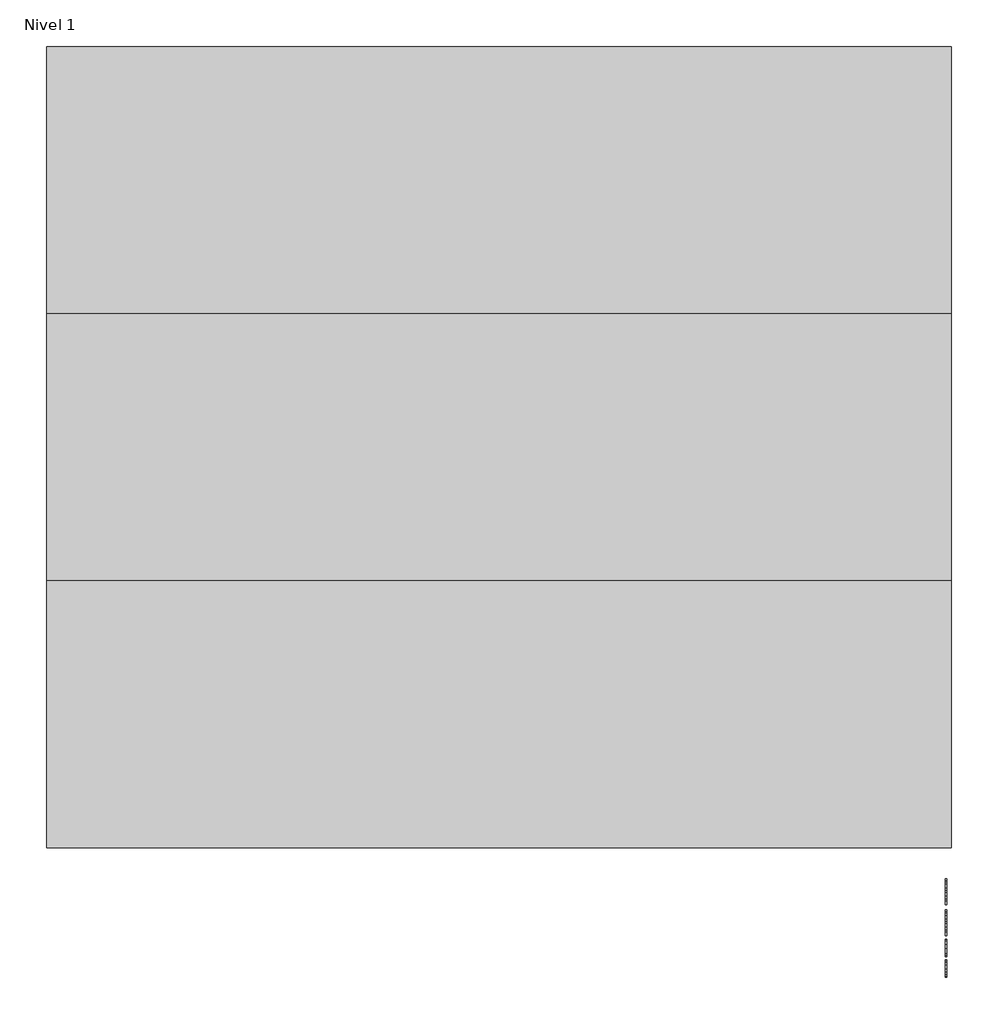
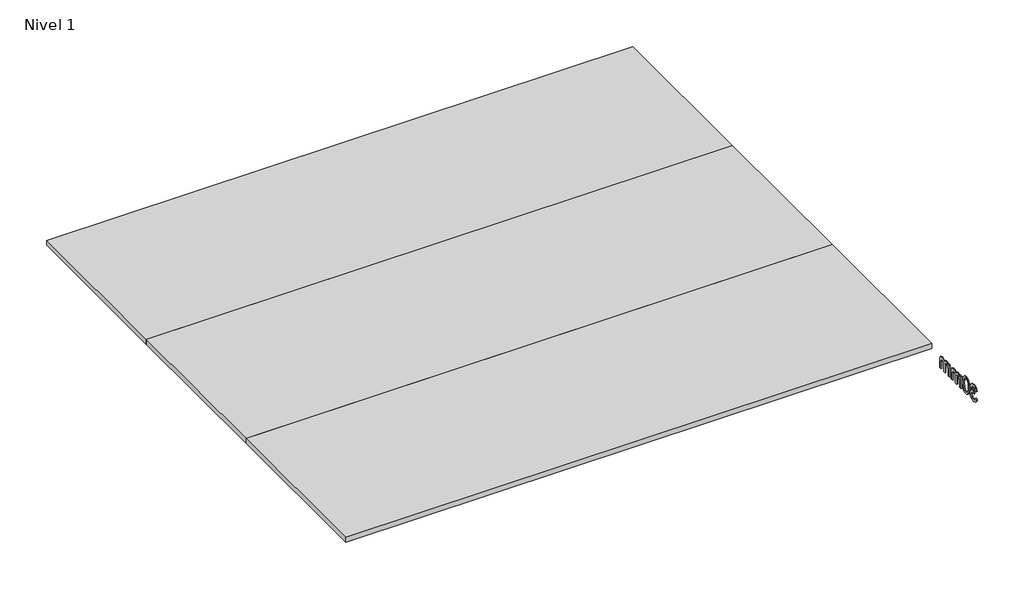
# One storey, incomplete: 3 plates, 1 proxy.
"""IFC4 building model written with IfcOpenShell, lengths in millimetres."""

from ifc_helpers import new_model, si_unit, frame, origin, place, context, project, spatial, polyline, outline, extrude, transform, mapped, element, save
from components import panel_del_sistema_34b5a67a, panel_del_sistema_solido_68a6e451

model = new_model("IFC4")

# Units and contexts
model_context = context("Model", 3, world=origin())
ifc_project = project(units=[si_unit("LENGTHUNIT", "METRE", prefix="MILLI")], contexts=[model_context])

# Site, building, storey
site = spatial("IfcSite", under=ifc_project)
building = spatial("IfcBuilding", under=site)
storey = spatial("IfcBuildingStorey", under=building, Name="Nivel 1", Elevation=0.0)

# Proxy
placement = place(None, origin())
element("IfcBuildingElementProxy", 1, Name="100mm Arial", ObjectType="100mm Arial", at=placement, inside=storey, context=model_context, shape_type="SweptSolid", body=[
    extrude(outline(polyline([(14811.6332666, -40.4578656), (14824.1903054, -38.8882358), (14831.1187496, -52.1074622), (14844.0804586, -56.1541641), (14852.6888973, -54.7623439), (14859.3352987, -50.5868832), (14865.0006814, -36.8035712), (14859.3843496, -23.8173367), (14845.1105282, -18.6792515), (14836.3058858, -20.0526776), (14837.7038373, -7.4956389), (14839.7149256, -7.6427917), (14853.9642215, -4.0375481), (14858.7098993, 0.5364513), (14860.2917918, 7.0479627), (14855.7055296, 16.8704119), (14843.8842549, 20.7576984), (14831.9158273, 16.8336237), (14825.7599352, 5.0613999), (14813.2028965, 6.6310297), (14816.9001105, 17.9066129), (14823.4790669, 26.3249792), (14832.479913, 31.5672976), (14843.4427965, 33.3147371), (14858.5872719, 29.8689091), (14869.1822734, 20.45113), (14872.8488306, 7.7837267), (14869.3662144, -3.7922935), (14859.0655185, -12.1064266), (14872.7507287, -20.6903398), (14877.5577201, -37.0243004), (14875.1542244, -49.2625081), (14867.9437373, -59.4896275), (14857.0605616, -66.405809), (14843.6390002, -68.7112029), (14831.4988943, -66.7430342), (14821.6151314, -60.8385282), (14814.7418695, -51.8070252), (14811.6332666, -40.4578656)])), frame((9557.0230098, 0.0, 0.0), z_axis=(1.0, 0.0, 0.0), x_axis=(0.0, 1.0, 0.0)), (0.0, 0.0, 1.0), 5.0),
    extrude(outline(polyline([(14888.5451291, -17.7227583), (14892.2362118, 11.1805037), (14903.1990952, 27.8455581), (14921.5073558, 33.3147371), (14936.1735847, 30.0773756), (14946.3026023, 20.7454356), (14952.1887142, 5.883003), (14954.4695826, -17.7227583), (14950.8152881, -46.5033931), (14939.8891929, -63.2052357), (14931.6578332, -67.3347111), (14921.5073558, -68.7112029), (14908.4598077, -66.3199699), (14898.5515193, -59.146271), (14891.0467266, -42.1562542), (14888.5451291, -17.7227583)]), holes=[polyline([(14901.1021678, -17.6982329), (14902.5736958, -37.4504303), (14906.9882798, -48.8823633), (14913.5611047, -54.3362139), (14921.5073558, -56.1541641), (14929.4536069, -54.3300825), (14936.0264319, -48.8578379), (14940.4410159, -37.4197735), (14941.9125438, -17.6982329), (14940.4900668, 1.6094405), (14936.2226356, 13.1302783), (14929.6620734, 18.8508433), (14921.360203, 20.7576984), (14913.4997911, 19.0777039), (14907.1844835, 14.0377206), (14902.6227467, 1.7995129), (14901.1021678, -17.6982329)])]), frame((9557.0230098, 0.0, 0.0), z_axis=(1.0, 0.0, 0.0), x_axis=(0.0, 1.0, 0.0)), (0.0, 0.0, 1.0), 5.0),
    extrude(outline(polyline([(14968.5962512, -67.141573), (14968.5962512, 6.6310297), (14981.15329, 6.6310297), (14981.15329, -5.5090761), (14989.7862541, 4.4360005), (15002.0735128, 8.2006596), (15014.655077, 4.3624241), (15021.5712585, -6.3919929), (15031.3691823, 4.5524965), (15043.7422801, 8.2006596), (15053.181519, 6.6831464), (15060.1620798, 2.1306067), (15064.4754962, -5.5795868), (15065.9133017, -16.5700614), (15065.9133017, -67.141573), (15053.3562629, -67.141573), (15053.3562629, -21.965664), (15052.1913033, -11.4810272), (15047.972923, -6.3184165), (15040.7992241, -4.3563792), (15028.4506518, -9.3840998), (15024.7626348, -15.9262679), (15023.5332958, -25.4973312), (15023.5332958, -67.141573), (15010.9762571, -67.141573), (15010.9762571, -20.5677124), (15008.0699893, -8.4030811), (14998.5418456, -4.3563792), (14989.2466939, -7.0541805), (14983.0662764, -14.9513806), (14981.15329, -29.9364406), (14981.15329, -67.141573), (14968.5962512, -67.141573)])), frame((9557.0230098, 0.0, 0.0), z_axis=(1.0, 0.0, 0.0), x_axis=(0.0, 1.0, 0.0)), (0.0, 0.0, 1.0), 5.0),
    extrude(outline(polyline([(15084.7488598, -67.141573), (15084.7488598, 6.6310297), (15097.3058986, 6.6310297), (15097.3058986, -5.5090761), (15105.9388628, 4.4360005), (15118.2261214, 8.2006596), (15130.8076856, 4.3624241), (15137.7238671, -6.3919929), (15147.5217909, 4.5524965), (15159.8948887, 8.2006596), (15169.3341276, 6.6831464), (15176.3146884, 2.1306067), (15180.6281048, -5.5795868), (15182.0659103, -16.5700614), (15182.0659103, -67.141573), (15169.5088715, -67.141573), (15169.5088715, -21.965664), (15168.3439119, -11.4810272), (15164.1255317, -6.3184165), (15156.9518327, -4.3563792), (15144.6032604, -9.3840998), (15140.9152434, -15.9262679), (15139.6859044, -25.4973312), (15139.6859044, -67.141573), (15127.1288657, -67.141573), (15127.1288657, -20.5677124), (15124.2225979, -8.4030811), (15114.6944542, -4.3563792), (15105.3993025, -7.0541805), (15099.218885, -14.9513806), (15097.3058986, -29.9364406), (15097.3058986, -67.141573), (15084.7488598, -67.141573)])), frame((9557.0230098, 0.0, 0.0), z_axis=(1.0, 0.0, 0.0), x_axis=(0.0, 1.0, 0.0)), (0.0, 0.0, 1.0), 5.0),
])

# Plates
panel_del_sistema_shape = panel_del_sistema_34b5a67a(model_context)
element("IfcPlate", 2, ObjectType="Panel del sistema : HIANSA PANEL - PANELES DE ILUMINACIÓN - HEXAGONA - Esp. 30mm", at=placement, inside=storey, context=model_context, shape_type="MappedRepresentation", body=[
    mapped(panel_del_sistema_shape, transform((9579.0356399, 16798.3330793, -29.5962409), x_axis=(0.0, -1.0, 0.0), y_axis=(0.0, 0.0, 1.0), z_axis=(-1.0, 0.0, 0.0))),
])
panel_del_sistema_solido_shape = panel_del_sistema_solido_68a6e451(model_context)
element("IfcPlate", 3, ObjectType="Panel del sistema : Solido", at=placement, inside=storey, context=model_context, shape_type="MappedRepresentation", body=[
    mapped(panel_del_sistema_solido_shape, transform((9579.0356399, 17798.3330794, -29.5962409), x_axis=(0.0, -1.0, 0.0), y_axis=(0.0, 0.0, 1.0), z_axis=(-1.0, 0.0, 0.0))),
])
element("IfcPlate", 4, ObjectType="Panel del sistema : Solido", at=placement, inside=storey, context=model_context, shape_type="MappedRepresentation", body=[
    mapped(panel_del_sistema_solido_shape, transform((9579.0356399, 15798.3330794, -29.5962409), x_axis=(0.0, -1.0, 0.0), y_axis=(0.0, 0.0, 1.0), z_axis=(-1.0, 0.0, 0.0))),
])

save(model, "model.ifc")
